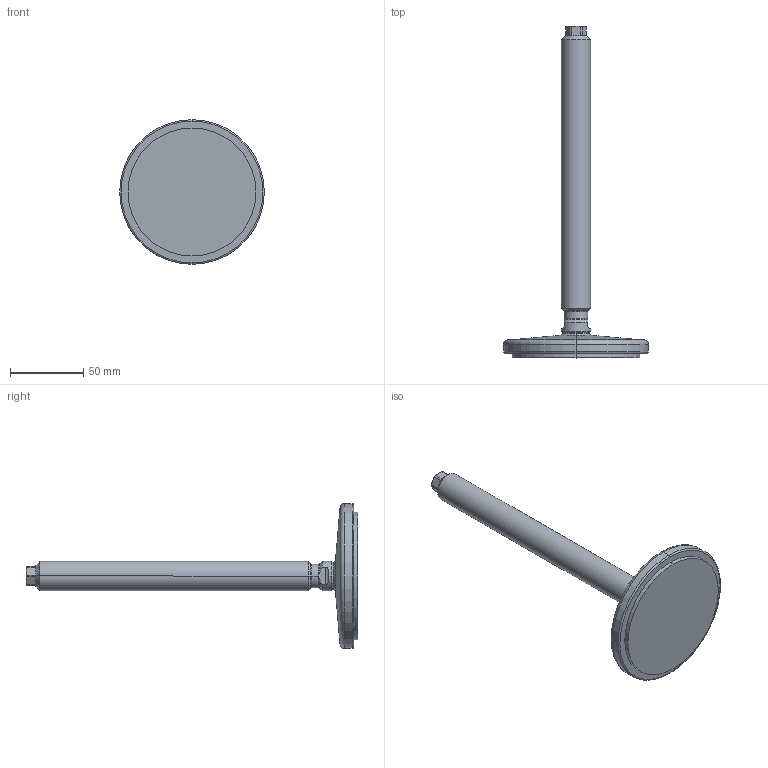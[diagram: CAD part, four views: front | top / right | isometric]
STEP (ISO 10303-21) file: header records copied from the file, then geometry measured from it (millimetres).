
FILE_DESCRIPTION (( 'STEP AP214' ), '1' );
FILE_NAME ('21-100-M20-200-D1-V.step', '2020-10-02T17:37:14', ( '' ), ( '' ), 'SwSTEP 2.0', 'SolidWorks 2019', '' );
FILE_SCHEMA (( 'AUTOMOTIVE_DESIGN' ));
Length unit declared in the file: millimetre
Products named in the file (3): 21-100-M20-200-D1-V; WB21_Fußteller 21^WB21_V_D1-100-R12-B9 (M20); WB21_Spindel_V^WB21_V_M20-200
Assembly tree (2 placements, depth 2):
  21-100-M20-200-D1-V
    WB21_Fußteller 21^WB21_V_D1-100-R12-B9 (M20)
    WB21_Spindel_V^WB21_V_M20-200
Bounding box: 99 x 227.02 x 99 mm (x, y, z)
Volume: 161819.2 mm3; surface area: 32515.8 mm2
Topology: 2 solids, 2 shells, 76 faces, 171 edges, 101 vertices
Faces by surface type: cylinder 25, plane 20, cone 17, torus 10, sphere 4
Entity records: 2387 total; most frequent: CARTESIAN_POINT 505, DIRECTION 390, ORIENTED_EDGE 342, EDGE_CURVE 171, AXIS2_PLACEMENT_3D 166, VERTEX_POINT 101, CIRCLE 85, EDGE_LOOP 78
